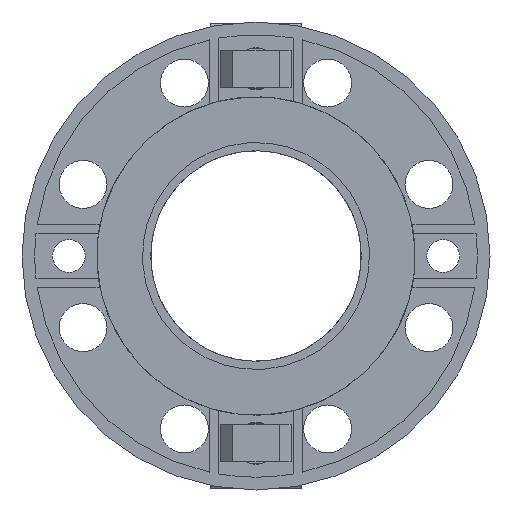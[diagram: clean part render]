
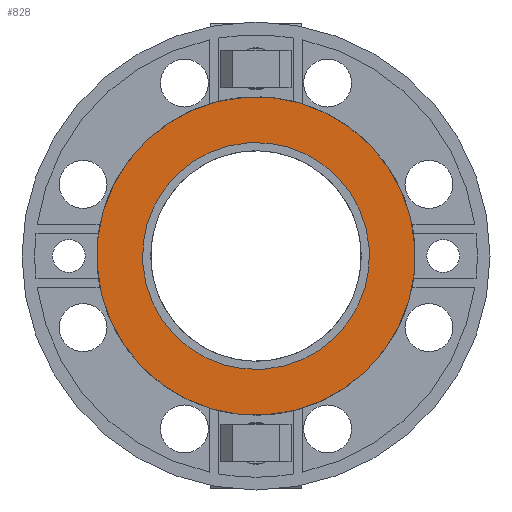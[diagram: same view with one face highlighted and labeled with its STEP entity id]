
A CAD part, front view. The second image highlights one B-rep face of the part: STEP entity #828.
In plain terms, the highlighted planar face has unit normal (0, -1, 0).
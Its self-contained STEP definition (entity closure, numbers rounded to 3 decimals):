
#48 = AXIS2_PLACEMENT_3D ( 'NONE', #5162, #1148, #8660 ) ;
#65 = ORIENTED_EDGE ( 'NONE', *, *, #1575, .F. ) ;
#74 = CARTESIAN_POINT ( 'NONE',  ( -3.279, -3., 48.389 ) ) ;
#304 = CARTESIAN_POINT ( 'NONE',  ( 0., -3., 0. ) ) ;
#828 = ADVANCED_FACE ( 'Defeatured_0_106', ( #3553, #6260 ), #2487, .F. ) ;
#867 = CIRCLE ( 'NONE', #2738, 68. ) ;
#1030 = DIRECTION ( 'NONE',  ( 0., 1., 0. ) ) ;
#1148 = DIRECTION ( 'NONE',  ( 0., 1., 0. ) ) ;
#1161 = VERTEX_POINT ( 'NONE', #74 ) ;
#1214 = DIRECTION ( 'NONE',  ( -0.068, 0., 0.998 ) ) ;
#1575 = EDGE_CURVE ( 'Defeatured_0_107+Defeatured_0_106+Defeatured_0_106+Defeatured_0_106', #4554, #1700, #5160, .T. ) ;
#1645 = CIRCLE ( 'NONE', #8058, 48.5 ) ;
#1700 = VERTEX_POINT ( 'NONE', #8522 ) ;
#2321 = CARTESIAN_POINT ( 'NONE',  ( 3.279, -3., -48.389 ) ) ;
#2333 = CARTESIAN_POINT ( 'NONE',  ( -4.597, -3., 67.844 ) ) ;
#2487 = PLANE ( 'NONE',  #6038 ) ;
#2738 = AXIS2_PLACEMENT_3D ( 'NONE', #4001, #8694, #3159 ) ;
#3026 = EDGE_LOOP ( 'NONE', ( #4339, #8473 ) ) ;
#3089 = DIRECTION ( 'NONE',  ( -0.068, 0., 0.998 ) ) ;
#3159 = DIRECTION ( 'NONE',  ( -0.068, 0., 0.998 ) ) ;
#3235 = VERTEX_POINT ( 'NONE', #2321 ) ;
#3553 = FACE_BOUND ( 'NONE', #3026, .T. ) ;
#3802 = CARTESIAN_POINT ( 'NONE',  ( 0., -3., 0. ) ) ;
#3847 = EDGE_CURVE ( 'Defeatured_0_107+Defeatured_0_106+Defeatured_0_106+Defeatured_0_106', #1700, #4554, #867, .T. ) ;
#4001 = CARTESIAN_POINT ( 'NONE',  ( 0., -3., 0. ) ) ;
#4339 = ORIENTED_EDGE ( 'NONE', *, *, #6231, .T. ) ;
#4548 = CARTESIAN_POINT ( 'NONE',  ( 0., -3., 0. ) ) ;
#4554 = VERTEX_POINT ( 'NONE', #2333 ) ;
#5160 = CIRCLE ( 'NONE', #48, 68. ) ;
#5162 = CARTESIAN_POINT ( 'NONE',  ( 0., -3., 0. ) ) ;
#5814 = DIRECTION ( 'NONE',  ( -0.068, 0., 0.998 ) ) ;
#5876 = AXIS2_PLACEMENT_3D ( 'NONE', #4548, #7903, #1214 ) ;
#6038 = AXIS2_PLACEMENT_3D ( 'NONE', #304, #7156, #5814 ) ;
#6155 = CIRCLE ( 'NONE', #5876, 48.5 ) ;
#6231 = EDGE_CURVE ( 'Defeatured_0_106+Defeatured_0_208+Defeatured_0_208+Defeatured_0_208', #3235, #1161, #6155, .T. ) ;
#6260 = FACE_OUTER_BOUND ( 'NONE', #7473, .T. ) ;
#7156 = DIRECTION ( 'NONE',  ( 0., 1., 0. ) ) ;
#7473 = EDGE_LOOP ( 'NONE', ( #8447, #65 ) ) ;
#7903 = DIRECTION ( 'NONE',  ( 0., 1., 0. ) ) ;
#8058 = AXIS2_PLACEMENT_3D ( 'NONE', #3802, #1030, #3089 ) ;
#8447 = ORIENTED_EDGE ( 'NONE', *, *, #3847, .F. ) ;
#8473 = ORIENTED_EDGE ( 'NONE', *, *, #8651, .T. ) ;
#8522 = CARTESIAN_POINT ( 'NONE',  ( 4.597, -3., -67.844 ) ) ;
#8651 = EDGE_CURVE ( 'Defeatured_0_106+Defeatured_0_208+Defeatured_0_208+Defeatured_0_208', #1161, #3235, #1645, .T. ) ;
#8660 = DIRECTION ( 'NONE',  ( -0.068, 0., 0.998 ) ) ;
#8694 = DIRECTION ( 'NONE',  ( 0., 1., 0. ) ) ;
